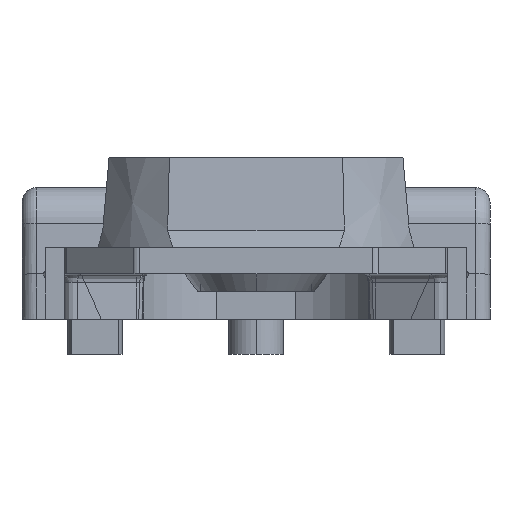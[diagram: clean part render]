
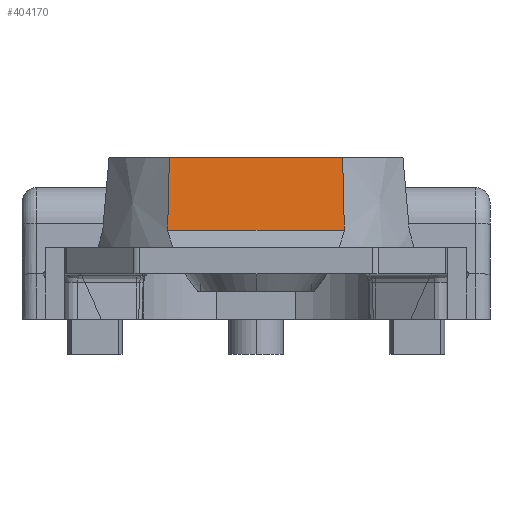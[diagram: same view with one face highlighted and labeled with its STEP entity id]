
A CAD part, left-side view. The second image highlights one B-rep face of the part: STEP entity #404170.
In plain terms, the highlighted planar face has unit normal (-0.996, 0, 0.087) as drawn and (0, 0.996, -0.087) by its records, which use the part's own axes.
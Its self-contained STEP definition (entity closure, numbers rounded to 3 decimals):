
#400790=CARTESIAN_POINT('',(61.006,176.,
0.01));
#400800=DIRECTION('',(0.,0.,1.));
#400810=DIRECTION('',(-1.,0.,0.));
#400820=AXIS2_PLACEMENT_3D('',#400790,#400800,#400810);
#400830=CONICAL_SURFACE('',#400820,6.1,0.087);
#401230=CARTESIAN_POINT('',(64.026,181.239,
-0.59));
#401240=VERTEX_POINT('',#401230);
#401270=CARTESIAN_POINT('',(61.006,181.239,
-0.59));
#401280=DIRECTION('',(0.,0.996,-0.087));
#401290=DIRECTION('',(-0.,-0.087,-0.996));
#401300=AXIS2_PLACEMENT_3D('',#401270,#401280,#401290);
#401310=PLANE('',#401300);
#401320=CARTESIAN_POINT('',(63.968,181.023,
-3.064));
#401330=CARTESIAN_POINT('',(63.973,181.041,
-2.858));
#401340=CARTESIAN_POINT('',(63.978,181.059,
-2.652));
#401350=CARTESIAN_POINT('',(63.983,181.077,
-2.445));
#401360=CARTESIAN_POINT('',(63.988,181.095,
-2.239));
#401370=CARTESIAN_POINT('',(63.992,181.113,
-2.033));
#401380=CARTESIAN_POINT('',(63.997,181.131,
-1.827));
#401390=CARTESIAN_POINT('',(64.002,181.149,
-1.621));
#401400=CARTESIAN_POINT('',(64.007,181.167,
-1.415));
#401410=CARTESIAN_POINT('',(64.012,181.185,
-1.208));
#401420=CARTESIAN_POINT('',(64.017,181.203,
-1.002));
#401430=CARTESIAN_POINT('',(64.022,181.221,
-0.796));
#401440=CARTESIAN_POINT('',(64.026,181.239,
-0.59));
#401450=B_SPLINE_CURVE_WITH_KNOTS('',3,(#401320,#401330,#401340,#401350,
#401360,#401370,#401380,#401390,#401400,#401410,#401420,#401430,#401440)
,.UNSPECIFIED.,.F.,.F.,(4,3,3,3,4),(0.,0.621,
1.242,1.863,2.484),.UNSPECIFIED.);
#401460=SURFACE_CURVE('',#401450,(#400830,#401310),.CURVE_3D.);
#401470=CARTESIAN_POINT('',(63.968,181.023,
-3.064));
#401480=VERTEX_POINT('',#401470);
#401490=EDGE_CURVE('',#401480,#401240,#401460,.T.);
#403760=CARTESIAN_POINT('',(61.006,176.,
0.01));
#403770=DIRECTION('',(0.,0.,1.));
#403780=DIRECTION('',(-1.,0.,0.));
#403790=AXIS2_PLACEMENT_3D('',#403760,#403770,#403780);
#403800=CONICAL_SURFACE('',#403790,6.1,0.087);
#403810=CARTESIAN_POINT('',(57.986,181.239,
-0.59));
#403820=CARTESIAN_POINT('',(57.99,181.221,
-0.796));
#403830=CARTESIAN_POINT('',(57.995,181.203,
-1.002));
#403840=CARTESIAN_POINT('',(58.,181.185,
-1.208));
#403850=CARTESIAN_POINT('',(58.005,181.167,
-1.415));
#403860=CARTESIAN_POINT('',(58.01,181.149,
-1.621));
#403870=CARTESIAN_POINT('',(58.015,181.131,
-1.827));
#403880=CARTESIAN_POINT('',(58.02,181.113,
-2.033));
#403890=CARTESIAN_POINT('',(58.024,181.095,
-2.239));
#403900=CARTESIAN_POINT('',(58.029,181.077,
-2.445));
#403910=CARTESIAN_POINT('',(58.034,181.059,
-2.652));
#403920=CARTESIAN_POINT('',(58.039,181.041,
-2.858));
#403930=CARTESIAN_POINT('',(58.044,181.023,
-3.064));
#403940=B_SPLINE_CURVE_WITH_KNOTS('',3,(#403810,#403820,#403830,#403840,
#403850,#403860,#403870,#403880,#403890,#403900,#403910,#403920,#403930)
,.UNSPECIFIED.,.F.,.F.,(4,3,3,3,4),(0.,0.621,1.242
,1.863,2.484),.UNSPECIFIED.);
#403950=SURFACE_CURVE('',#403940,(#403800,#401310),.CURVE_3D.);
#403960=CARTESIAN_POINT('',(57.986,181.239,
-0.59));
#403970=VERTEX_POINT('',#403960);
#403980=CARTESIAN_POINT('',(58.044,181.023,
-3.064));
#403990=VERTEX_POINT('',#403980);
#404000=EDGE_CURVE('',#403970,#403990,#403950,.T.);
#404010=ORIENTED_EDGE('',*,*,#404000,.F.);
#404020=CARTESIAN_POINT('',(122.012,181.023,
-3.064));
#404030=DIRECTION('',(1.,0.,0.));
#404040=VECTOR('',#404030,1.);
#404050=LINE('',#404020,#404040);
#404060=EDGE_CURVE('',#403990,#401480,#404050,.T.);
#404070=ORIENTED_EDGE('',*,*,#404060,.F.);
#404080=ORIENTED_EDGE('',*,*,#401490,.F.);
#404090=CARTESIAN_POINT('',(122.012,181.239,
-0.59));
#404100=DIRECTION('',(-1.,0.,0.));
#404110=VECTOR('',#404100,1.);
#404120=LINE('',#404090,#404110);
#404130=EDGE_CURVE('',#401240,#403970,#404120,.T.);
#404140=ORIENTED_EDGE('',*,*,#404130,.F.);
#404150=EDGE_LOOP('',(#404140,#404080,#404070,#404010));
#404160=FACE_OUTER_BOUND('',#404150,.T.);
#404170=ADVANCED_FACE('',(#404160),#401310,.T.);
